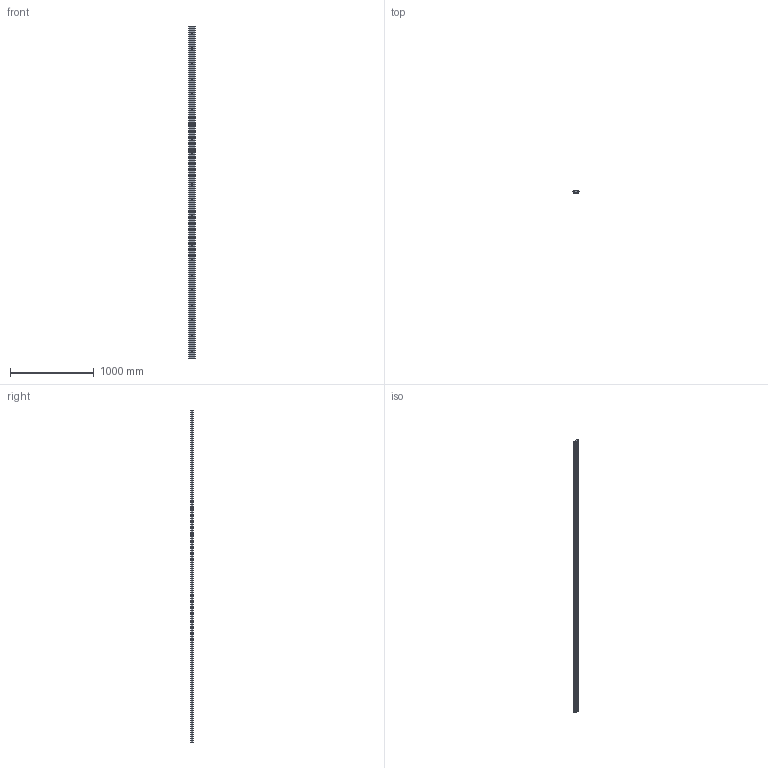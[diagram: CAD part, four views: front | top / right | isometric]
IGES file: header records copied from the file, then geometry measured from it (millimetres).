
Start section: 3D InterOp IGES (v. 2019 1.0.2), Spatial Corp. Copyright (c) 1999-2017.
Global section: file name: SS NL76 3956.igs; native system: Spatial Corp.; preprocessor: 3D InterOp GENERIC/IGES 3.0; author: Noname; organization: Noname; date: 20220628.112216; units: millimetre
Bounding box: 75.61 x 24 x 3956 mm (x, y, z)
Surface area: 808427.3 mm2 (no closed solid volume)
Topology: 0 solids, 0 shells, 154 faces, 780 edges, 780 vertices
Faces by surface type: revolution 104, extrusion 50
